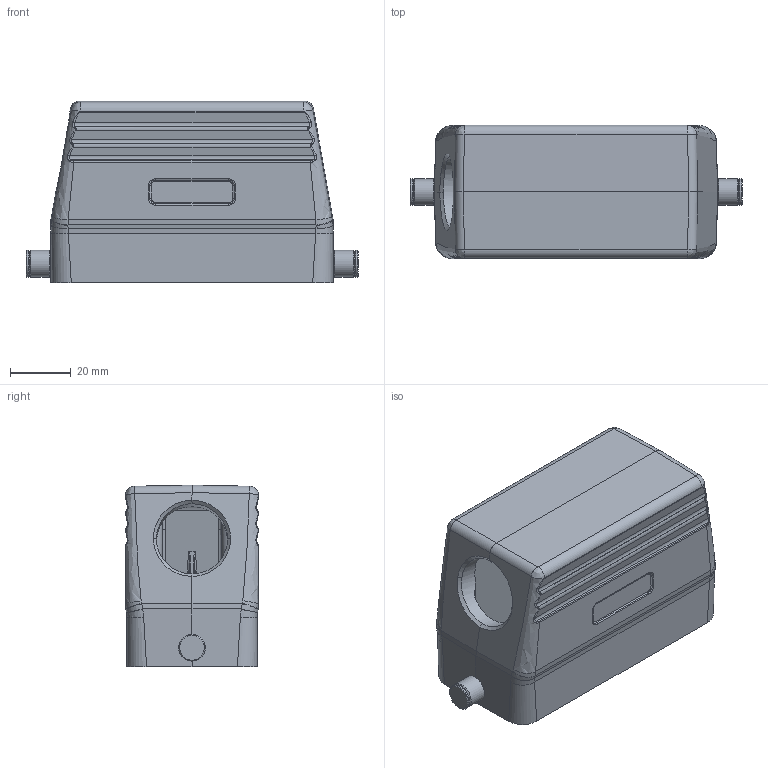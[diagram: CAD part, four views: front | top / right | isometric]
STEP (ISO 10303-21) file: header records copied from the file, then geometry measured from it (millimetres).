
FILE_DESCRIPTION (( 'STEP AP203' ), '1' );
FILE_NAME ('H16B-TS-RO-M25.STEP', '2023-06-07T08:42:56', ( '' ), ( '' ), 'SwSTEP 2.0', 'SolidWorks 2016', '' );
FILE_SCHEMA (( 'CONFIG_CONTROL_DESIGN' ));
Length unit declared in the file: millimetre
Products named in the file (1): H16B-TS-RO-M25
Bounding box: 109.7 x 44 x 60 mm (x, y, z)
Volume: 73623 mm3; surface area: 35045.5 mm2
Topology: 1 solids, 1 shells, 385 faces, 928 edges, 560 vertices
Faces by surface type: bspline 134, cylinder 117, plane 86, cone 28, torus 16, sphere 4
Full cylindrical faces by diameter (mm): 3.5 x2, 7.8 x2, 8.8 x4, 23.5 x1
Entity records: 20475 total; most frequent: CARTESIAN_POINT 13187, ORIENTED_EDGE 1774, DIRECTION 1022, EDGE_CURVE 887, VERTEX_POINT 549, B_SPLINE_CURVE_WITH_KNOTS 451, EDGE_LOOP 432, AXIS2_PLACEMENT_3D 394
